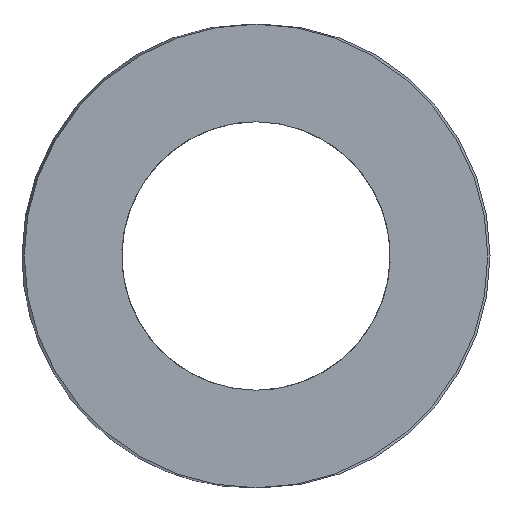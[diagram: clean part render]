
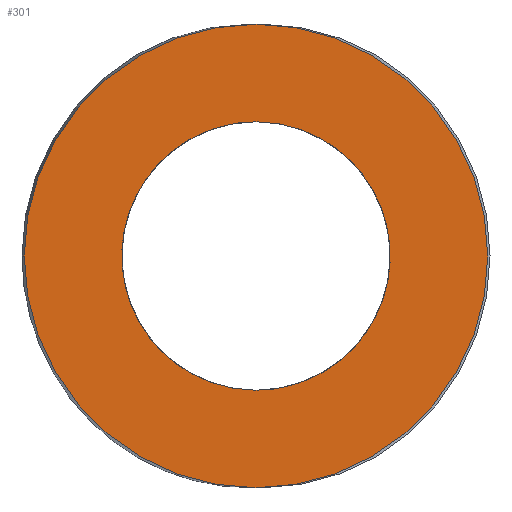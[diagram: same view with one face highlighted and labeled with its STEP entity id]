
A CAD part, left-side view. The second image highlights one B-rep face of the part: STEP entity #301.
In plain terms, the highlighted planar face has unit normal (-1, 0, 0).
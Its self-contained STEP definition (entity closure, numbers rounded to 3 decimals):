
#63=CARTESIAN_POINT('Vertex',(0.,7.6,0.)) ;
#77=CARTESIAN_POINT('Vertex',(0.,-7.6,0.)) ;
#80=CARTESIAN_POINT('Axis2P3D Location',(0.,0.,0.)) ;
#97=CARTESIAN_POINT('Axis2P3D Location',(0.,0.,0.)) ;
#232=CARTESIAN_POINT('Axis2P3D Location',(0.,3.8,0.)) ;
#242=CARTESIAN_POINT('Control Point',(0.,0.,-4.4)) ;
#243=CARTESIAN_POINT('Control Point',(0.,0.411,-4.4)) ;
#244=CARTESIAN_POINT('Control Point',(0.,0.822,-4.352)) ;
#245=CARTESIAN_POINT('Control Point',(0.,1.226,-4.256)) ;
#246=CARTESIAN_POINT('Control Point',(0.,2.003,-3.972)) ;
#247=CARTESIAN_POINT('Control Point',(0.,2.694,-3.516)) ;
#248=CARTESIAN_POINT('Control Point',(0.,3.011,-3.248)) ;
#249=CARTESIAN_POINT('Control Point',(0.,3.577,-2.644)) ;
#250=CARTESIAN_POINT('Control Point',(0.,3.988,-1.926)) ;
#251=CARTESIAN_POINT('Control Point',(0.,4.151,-1.544)) ;
#252=CARTESIAN_POINT('Control Point',(0.,4.384,-0.75)) ;
#253=CARTESIAN_POINT('Control Point',(0.,4.428,0.076)) ;
#254=CARTESIAN_POINT('Control Point',(0.,4.402,0.49)) ;
#255=CARTESIAN_POINT('Control Point',(0.,4.252,1.304)) ;
#256=CARTESIAN_POINT('Control Point',(0.,3.92,2.062)) ;
#257=CARTESIAN_POINT('Control Point',(0.,3.71,2.42)) ;
#258=CARTESIAN_POINT('Control Point',(0.,3.21,3.079)) ;
#259=CARTESIAN_POINT('Control Point',(0.,2.571,3.606)) ;
#260=CARTESIAN_POINT('Control Point',(0.,2.223,3.831)) ;
#261=CARTESIAN_POINT('Control Point',(0.,1.581,4.145)) ;
#262=CARTESIAN_POINT('Control Point',(0.,0.892,4.324)) ;
#263=CARTESIAN_POINT('Control Point',(0.,0.597,4.375)) ;
#264=CARTESIAN_POINT('Control Point',(0.,0.298,4.4)) ;
#265=CARTESIAN_POINT('Control Point',(0.,0.,4.4)) ;
#266=CARTESIAN_POINT('Vertex',(0.,0.,-4.4)) ;
#268=CARTESIAN_POINT('Vertex',(0.,0.,4.4)) ;
#272=CARTESIAN_POINT('Control Point',(0.,0.,4.4)) ;
#273=CARTESIAN_POINT('Control Point',(0.,-0.411,4.4)) ;
#274=CARTESIAN_POINT('Control Point',(0.,-0.822,4.352)) ;
#275=CARTESIAN_POINT('Control Point',(0.,-1.226,4.256)) ;
#276=CARTESIAN_POINT('Control Point',(0.,-2.003,3.972)) ;
#277=CARTESIAN_POINT('Control Point',(0.,-2.694,3.516)) ;
#278=CARTESIAN_POINT('Control Point',(0.,-3.011,3.248)) ;
#279=CARTESIAN_POINT('Control Point',(0.,-3.577,2.644)) ;
#280=CARTESIAN_POINT('Control Point',(0.,-3.988,1.926)) ;
#281=CARTESIAN_POINT('Control Point',(0.,-4.151,1.544)) ;
#282=CARTESIAN_POINT('Control Point',(0.,-4.384,0.75)) ;
#283=CARTESIAN_POINT('Control Point',(0.,-4.428,-0.076)) ;
#284=CARTESIAN_POINT('Control Point',(0.,-4.402,-0.49)) ;
#285=CARTESIAN_POINT('Control Point',(0.,-4.252,-1.304)) ;
#286=CARTESIAN_POINT('Control Point',(0.,-3.92,-2.062)) ;
#287=CARTESIAN_POINT('Control Point',(0.,-3.71,-2.42)) ;
#288=CARTESIAN_POINT('Control Point',(0.,-3.21,-3.079)) ;
#289=CARTESIAN_POINT('Control Point',(0.,-2.571,-3.606)) ;
#290=CARTESIAN_POINT('Control Point',(0.,-2.223,-3.831)) ;
#291=CARTESIAN_POINT('Control Point',(0.,-1.581,-4.145)) ;
#292=CARTESIAN_POINT('Control Point',(0.,-0.892,-4.324)) ;
#293=CARTESIAN_POINT('Control Point',(0.,-0.597,-4.375)) ;
#294=CARTESIAN_POINT('Control Point',(0.,-0.298,-4.4)) ;
#295=CARTESIAN_POINT('Control Point',(0.,0.,-4.4)) ;
#81=DIRECTION('Axis2P3D Direction',(1.,-0.,0.)) ;
#98=DIRECTION('Axis2P3D Direction',(1.,-0.,0.)) ;
#233=DIRECTION('Axis2P3D Direction',(-1.,0.,0.)) ;
#234=DIRECTION('Axis2P3D XDirection',(0.,1.,0.)) ;
#82=AXIS2_PLACEMENT_3D('Circle Axis2P3D',#80,#81,$) ;
#99=AXIS2_PLACEMENT_3D('Circle Axis2P3D',#97,#98,$) ;
#235=AXIS2_PLACEMENT_3D('Plane Axis2P3D',#232,#233,#234) ;
#238=ORIENTED_EDGE('',*,*,#84,.T.) ;
#239=ORIENTED_EDGE('',*,*,#101,.T.) ;
#298=ORIENTED_EDGE('',*,*,#270,.T.) ;
#299=ORIENTED_EDGE('',*,*,#296,.T.) ;
#300=FACE_BOUND('',#297,.T.) ;
#301=ADVANCED_FACE('392-B16-025',(#240,#300),#236,.T.) ;
#241=B_SPLINE_CURVE_WITH_KNOTS('',5,(#242,#243,#244,#245,#246,#247,#248,#249,#250,#251,#252,#253,#254,#255,#256,#257,#258,#259,#260,#261,#262,#263,#264,#265),.UNSPECIFIED.,.F.,.U.,(6,3,3,3,3,3,3,6),(0.,2.907,5.813,8.72,11.626,14.533,17.439,19.549),.UNSPECIFIED.) ;
#271=B_SPLINE_CURVE_WITH_KNOTS('',5,(#272,#273,#274,#275,#276,#277,#278,#279,#280,#281,#282,#283,#284,#285,#286,#287,#288,#289,#290,#291,#292,#293,#294,#295),.UNSPECIFIED.,.F.,.U.,(6,3,3,3,3,3,3,6),(0.,2.907,5.813,8.72,11.626,14.533,17.439,19.549),.UNSPECIFIED.) ;
#83=CIRCLE('generated circle',#82,7.6) ;
#100=CIRCLE('generated circle',#99,7.6) ;
#84=EDGE_CURVE('',#64,#78,#83,.F.) ;
#101=EDGE_CURVE('',#78,#64,#100,.F.) ;
#270=EDGE_CURVE('',#267,#269,#241,.T.) ;
#296=EDGE_CURVE('',#269,#267,#271,.T.) ;
#237=EDGE_LOOP('',(#238,#239)) ;
#297=EDGE_LOOP('',(#298,#299)) ;
#240=FACE_OUTER_BOUND('',#237,.T.) ;
#236=PLANE('Plane',#235) ;
#64=VERTEX_POINT('',#63) ;
#78=VERTEX_POINT('',#77) ;
#267=VERTEX_POINT('',#266) ;
#269=VERTEX_POINT('',#268) ;
